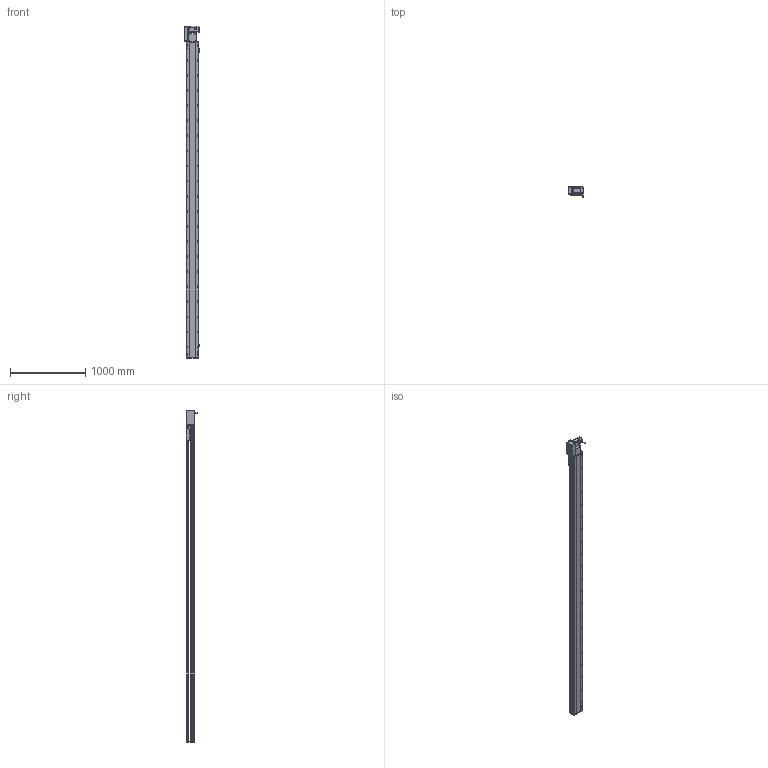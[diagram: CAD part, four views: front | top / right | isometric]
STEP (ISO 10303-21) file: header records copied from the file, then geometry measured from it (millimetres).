
FILE_DESCRIPTION (( 'STEP AP214' ), '1' );
FILE_NAME ('RTB17S-XX-3900-L-M75-C4.STEP', '2025-12-12T00:30:18', ( '' ), ( '' ), 'SwSTEP 2.0', 'SolidWorks 2018', '' );
FILE_SCHEMA (( 'AUTOMOTIVE_DESIGN' ));
Length unit declared in the file: millimetre
Products named in the file (15): RMP17S-L-014-T20-P75--々湍釱^RTB17S-L-々湍釱蚾饜-750W_RTB17S-XX-XX-L-M75-C4; 750W萇儂^RTB17S-XX-XX-L-M75-C4; RTB17S-L-001-耜醱啣^RTB17S-XX-XX-L-M75-C4; RTH13-BL-012覜茼え俋离^RTB17S-賑釱_RTB17S-XX-XX-L-M75-C4; RTB22S-GY-008-M75--萇儂啣^RTB17S-L-々湍釱蚾饜-750W_RTB17S-XX-XX-L-M75-C4; RTB17S-L-004-賑釱^RTB17S-賑釱_RTB17S-XX-XX-L-M75-C4; RTB17-R-011菁釱^RTB17S-XX-XX-L-M75-C4; EE672^RTB17S-XX-XX-L-M75-C4; RTB17S-XX-3900-L-M75-C4; RTB22S-GY-017P^RTB17S-L-々湍釱蚾饜-750W_RTB17S-XX-XX-L-M75-C4; RTB22S-GY-018P^RTB17S-L-々湍釱蚾饜-750W_RTB17S-XX-XX-L-M75-C4; RTB17S-賑釱^RTB17S-XX-XX-L-M75-C4; RTB17S-L-007奻裔^RTB17S-XX-XX-L-M75-C4; RTB22S-GY-005P^RTB17S-L-々湍釱蚾饜-750W_RTB17S-XX-XX-L-M75-C4; RTB17S-L-々湍釱蚾饜-750W^RTB17S-XX-XX-L-M75-C4
Assembly tree (17 placements, depth 3):
  RTB17S-XX-3900-L-M75-C4
    RTB17-R-011菁釱^RTB17S-XX-XX-L-M75-C4
    EE672^RTB17S-XX-XX-L-M75-C4  x3
    RTB17S-L-001-耜醱啣^RTB17S-XX-XX-L-M75-C4
    RTB17S-賑釱^RTB17S-XX-XX-L-M75-C4
      RTB17S-L-004-賑釱^RTB17S-賑釱_RTB17S-XX-XX-L-M75-C4
      RTH13-BL-012覜茼え俋离^RTB17S-賑釱_RTB17S-XX-XX-L-M75-C4
    RTB17S-L-007奻裔^RTB17S-XX-XX-L-M75-C4
    750W萇儂^RTB17S-XX-XX-L-M75-C4
    RTB17S-L-々湍釱蚾饜-750W^RTB17S-XX-XX-L-M75-C4
      RMP17S-L-014-T20-P75--々湍釱^RTB17S-L-々湍釱蚾饜-750W_RTB17S-XX-XX-L-M75-C4
      RTB22S-GY-005P^RTB17S-L-々湍釱蚾饜-750W_RTB17S-XX-XX-L-M75-C4
      RTB22S-GY-017P^RTB17S-L-々湍釱蚾饜-750W_RTB17S-XX-XX-L-M75-C4  x2
      RTB22S-GY-008-M75--萇儂啣^RTB17S-L-々湍釱蚾饜-750W_RTB17S-XX-XX-L-M75-C4
      RTB22S-GY-018P^RTB17S-L-々湍釱蚾饜-750W_RTB17S-XX-XX-L-M75-C4
Bounding box: 210.4 x 152.7 x 4399 mm (x, y, z)
Volume: 30326878.6 mm3; surface area: 5633973.1 mm2
Topology: 17 solids, 17 shells, 2329 faces, 6592 edges, 4274 vertices
Faces by surface type: plane 1000, cylinder 913, bspline 294, cone 110, sphere 8, torus 4
Entity records: 69622 total; most frequent: CARTESIAN_POINT 20856, ORIENTED_EDGE 10028, DIRECTION 9212, EDGE_CURVE 5014, AXIS2_PLACEMENT_3D 3294, VERTEX_POINT 3278, VECTOR 2624, LINE 2624
